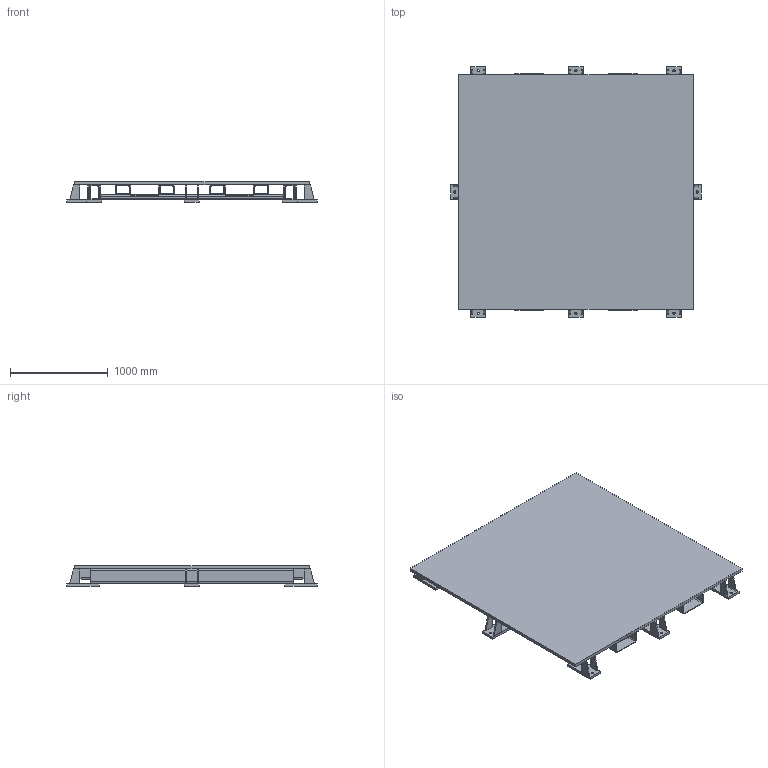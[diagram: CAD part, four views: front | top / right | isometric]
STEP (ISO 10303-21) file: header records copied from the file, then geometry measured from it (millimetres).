
FILE_DESCRIPTION(/* description */ (''),/* implementation_level */ '2;1');
FILE_NAME(/* name */ 'ASB2424.stp',/* time_stamp */ '2017-10-04T12:40:40-04:00',/* author */ (''),/* organization */ (''),/* preprocessor_version */ 'ST-DEVELOPER v15',/* originating_system */ 'SIEMENS PLM Software NX 9.0',/* authorisation */ '');
FILE_SCHEMA (('AUTOMOTIVE_DESIGN { 1 0 10303 214 3 1 1 1 }'));
Length unit declared in the file: millimetre
Products named in the file (1): nome1AAC8A8Aase2
Bounding box: 2559.2 x 2560 x 210 mm (x, y, z)
Volume: 270866742.9 mm3; surface area: 30111654.7 mm2
Topology: 2 solids, 2 shells, 422 faces, 1228 edges, 772 vertices
Faces by surface type: plane 318, cylinder 104
Full cylindrical faces by diameter (mm): 22.376 x8
Entity records: 13821 total; most frequent: ORIENTED_EDGE 2440, CARTESIAN_POINT 2415, DIRECTION 2274, EDGE_CURVE 1220, LINE 1012, VECTOR 1012, VERTEX_POINT 772, AXIS2_PLACEMENT_3D 631
